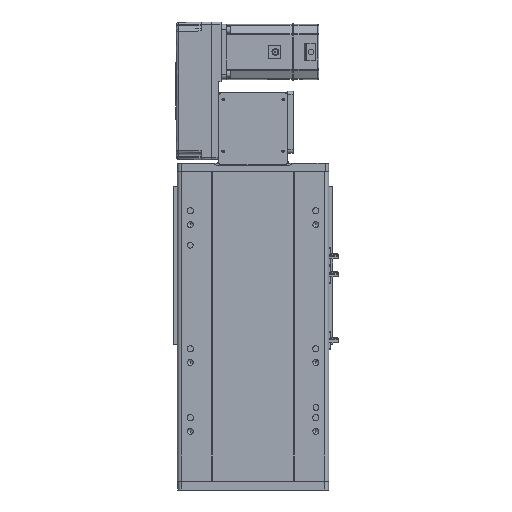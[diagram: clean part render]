
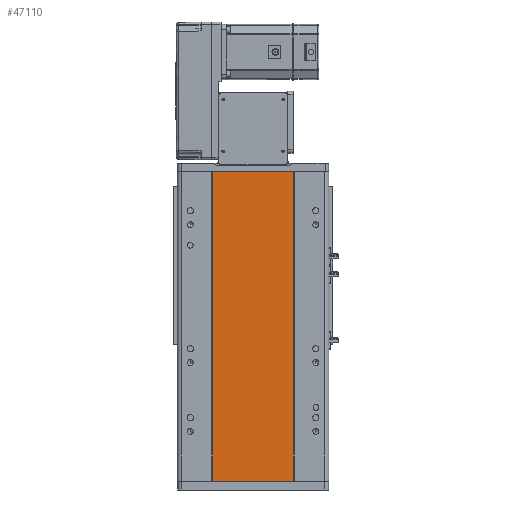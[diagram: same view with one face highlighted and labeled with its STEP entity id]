
A CAD part, front view. The second image highlights one B-rep face of the part: STEP entity #47110.
In plain terms, the highlighted planar face has unit normal (0, -1, 0).
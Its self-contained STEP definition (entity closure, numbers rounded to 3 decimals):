
#520 = CARTESIAN_POINT ( 'NONE',  ( -59., 1., -224.5 ) ) ;
#952 = VECTOR ( 'NONE', #8024, 1000. ) ;
#2731 = PLANE ( 'NONE',  #18702 ) ;
#7365 = LINE ( 'NONE', #12080, #26673 ) ;
#7449 = VERTEX_POINT ( 'NONE', #29574 ) ;
#8024 = DIRECTION ( 'NONE',  ( 0., 0., -1. ) ) ;
#8379 = DIRECTION ( 'NONE',  ( 0., 0., -1. ) ) ;
#11666 = VECTOR ( 'NONE', #8379, 1000. ) ;
#12080 = CARTESIAN_POINT ( 'NONE',  ( -59., 1., 224.5 ) ) ;
#12490 = ORIENTED_EDGE ( 'NONE', *, *, #24128, .T. ) ;
#14213 = DIRECTION ( 'NONE',  ( -1., 0., 0. ) ) ;
#14621 = ORIENTED_EDGE ( 'NONE', *, *, #25307, .F. ) ;
#14761 = ORIENTED_EDGE ( 'NONE', *, *, #21413, .T. ) ;
#17324 = CARTESIAN_POINT ( 'NONE',  ( 59., 1., 224.5 ) ) ;
#17761 = EDGE_CURVE ( 'NONE', #22823, #7449, #47484, .T. ) ;
#18702 = AXIS2_PLACEMENT_3D ( 'NONE', #22095, #25690, #14213 ) ;
#19286 = CARTESIAN_POINT ( 'NONE',  ( 59., 1., 224.5 ) ) ;
#21413 = EDGE_CURVE ( 'NONE', #22568, #7449, #27617, .T. ) ;
#21846 = VERTEX_POINT ( 'NONE', #40328 ) ;
#22095 = CARTESIAN_POINT ( 'NONE',  ( -59., 1., 224.5 ) ) ;
#22568 = VERTEX_POINT ( 'NONE', #520 ) ;
#22823 = VERTEX_POINT ( 'NONE', #17324 ) ;
#24128 = EDGE_CURVE ( 'NONE', #21846, #22568, #38879, .T. ) ;
#24384 = DIRECTION ( 'NONE',  ( 1., 0., 0. ) ) ;
#25307 = EDGE_CURVE ( 'NONE', #21846, #22823, #7365, .T. ) ;
#25690 = DIRECTION ( 'NONE',  ( 0., 1., 0. ) ) ;
#26413 = VECTOR ( 'NONE', #37333, 1000. ) ;
#26673 = VECTOR ( 'NONE', #24384, 1000. ) ;
#27499 = ORIENTED_EDGE ( 'NONE', *, *, #17761, .F. ) ;
#27617 = LINE ( 'NONE', #28648, #26413 ) ;
#28648 = CARTESIAN_POINT ( 'NONE',  ( -59., 1., -224.5 ) ) ;
#29574 = CARTESIAN_POINT ( 'NONE',  ( 59., 1., -224.5 ) ) ;
#31849 = EDGE_LOOP ( 'NONE', ( #14761, #27499, #14621, #12490 ) ) ;
#35086 = CARTESIAN_POINT ( 'NONE',  ( -59., 1., 224.5 ) ) ;
#37333 = DIRECTION ( 'NONE',  ( 1., 0., 0. ) ) ;
#38879 = LINE ( 'NONE', #35086, #11666 ) ;
#39076 = FACE_OUTER_BOUND ( 'NONE', #31849, .T. ) ;
#40328 = CARTESIAN_POINT ( 'NONE',  ( -59., 1., 224.5 ) ) ;
#47110 = ADVANCED_FACE ( 'NONE', ( #39076 ), #2731, .F. ) ;
#47484 = LINE ( 'NONE', #19286, #952 ) ;
